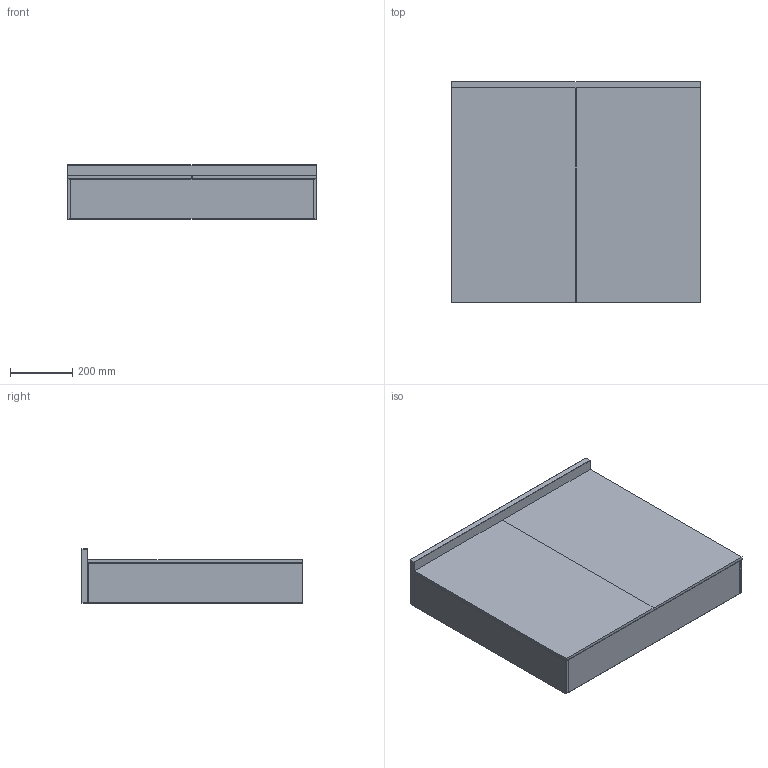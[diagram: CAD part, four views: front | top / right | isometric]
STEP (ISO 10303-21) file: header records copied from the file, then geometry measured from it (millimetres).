
FILE_DESCRIPTION (( 'STEP AP203' ), '1' );
FILE_NAME ('H3-MC-80-Shell-drawing.STEP', '2024-10-23T13:46:14', ( '' ), ( '' ), 'SwSTEP 2.0', 'SolidWorks 2024', '' );
FILE_SCHEMA (( 'CONFIG_CONTROL_DESIGN' ));
Length unit declared in the file: millimetre
Products named in the file (5): Spegeldörr-400x690x10; Sida-690x130x10; H3-MC-80-Shell-drawing; Topp-800x175x20; Botten-780-130
Assembly tree (6 placements, depth 2):
  H3-MC-80-Shell-drawing
    Topp-800x175x20
    Sida-690x130x10  x2
    Spegeldörr-400x690x10  x2
    Botten-780-130
Bounding box: 800 x 710 x 175 mm (x, y, z)
Volume: 11733331.4 mm3; surface area: 2083967.6 mm2
Topology: 6 solids, 6 shells, 116 faces, 248 edges, 112 vertices
Faces by surface type: cylinder 48, plane 36, sphere 32
Entity records: 2603 total; most frequent: DIRECTION 414, CARTESIAN_POINT 329, ORIENTED_EDGE 312, AXIS2_PLACEMENT_3D 165, EDGE_CURVE 156, FACE_OUTER_BOUND 84, VECTOR 84, ADVANCED_FACE 84
